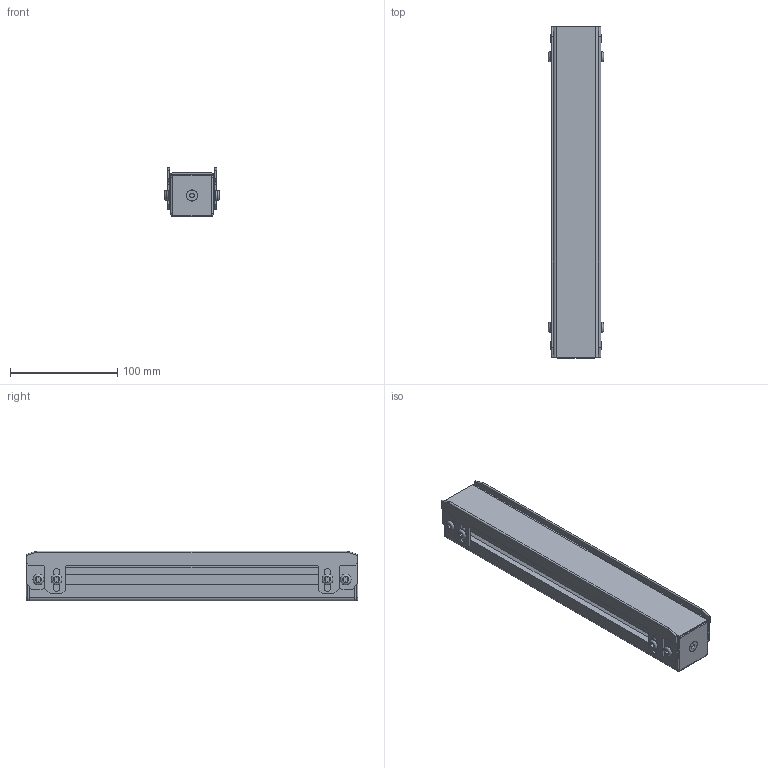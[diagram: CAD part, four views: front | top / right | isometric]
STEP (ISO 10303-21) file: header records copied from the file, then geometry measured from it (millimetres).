
FILE_DESCRIPTION(/* description */ (''),/* implementation_level */ '2;1');
FILE_NAME(/* name */ 'MGSS-FA-4040x310H.step',/* time_stamp */ '2022-12-15T13:00:20+09:00',/* author */ (''),/* organization */ (''),/* preprocessor_version */ 'ST-DEVELOPER v19.2',/* originating_system */ 'Autodesk Translation Framework v11.17.0.187',/* authorisation */ '');
FILE_SCHEMA (('AUTOMOTIVE_DESIGN { 1 0 10303 214 3 1 1 }'));
Length unit declared in the file: millimetre
Products named in the file (1): MGSS-FA-4040x310H
Bounding box: 51.6 x 310 x 46.5 mm (x, y, z)
Volume: 244942.1 mm3; surface area: 212405.5 mm2
Topology: 16 solids, 16 shells, 352 faces, 928 edges, 610 vertices
Faces by surface type: plane 236, cylinder 88, bspline 8, torus 8, sphere 8, cone 4
Full cylindrical faces by diameter (mm): 5 x2, 6 x4, 10 x8
Entity records: 10996 total; most frequent: CARTESIAN_POINT 1955, ORIENTED_EDGE 1856, DIRECTION 1844, EDGE_CURVE 928, LINE 702, VECTOR 702, VERTEX_POINT 610, AXIS2_PLACEMENT_3D 571
